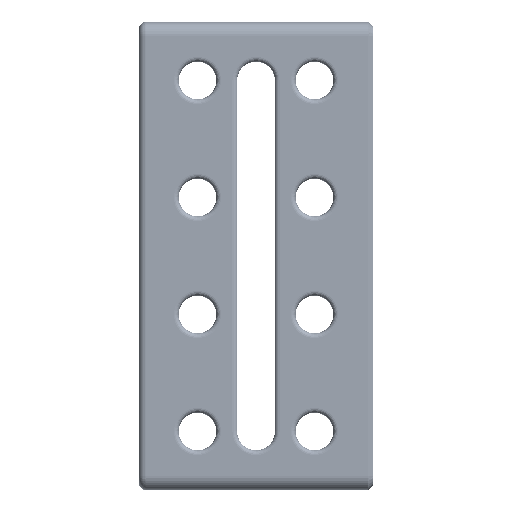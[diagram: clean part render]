
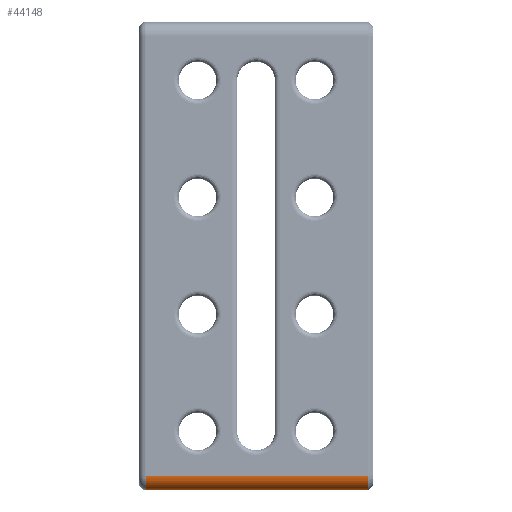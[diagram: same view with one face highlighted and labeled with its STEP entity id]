
A CAD part, left-side view. The second image highlights one B-rep face of the part: STEP entity #44148.
In plain terms, the highlighted cylindrical face has radius 6 mm (diameter 12 mm), a partial arc.
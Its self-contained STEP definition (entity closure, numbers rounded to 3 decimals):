
#2223 = EDGE_CURVE ( 'NONE', #53524, #18418, #20568, .T. ) ;
#8610 = DIRECTION ( 'NONE',  ( 0., 1., 0. ) ) ;
#9669 = CIRCLE ( 'NONE', #53481, 6. ) ;
#11099 = DIRECTION ( 'NONE',  ( 0., -1., 0. ) ) ;
#12696 = AXIS2_PLACEMENT_3D ( 'NONE', #42671, #8610, #48414 ) ;
#15423 = CARTESIAN_POINT ( 'NONE',  ( -750., -3., -94. ) ) ;
#16082 = CARTESIAN_POINT ( 'NONE',  ( -744., -3., -94. ) ) ;
#16832 = LINE ( 'NONE', #45186, #45305 ) ;
#18418 = VERTEX_POINT ( 'NONE', #48027 ) ;
#18537 = EDGE_CURVE ( 'NONE', #53524, #49909, #45219, .T. ) ;
#18580 = DIRECTION ( 'NONE',  ( 0., 1., 0. ) ) ;
#19907 = EDGE_LOOP ( 'NONE', ( #71280, #43034, #64623, #66709 ) ) ;
#20568 = CIRCLE ( 'NONE', #12696, 6. ) ;
#21131 = DIRECTION ( 'NONE',  ( 0., 1., 0. ) ) ;
#21787 = DIRECTION ( 'NONE',  ( 0., 0., 1. ) ) ;
#25303 = FACE_OUTER_BOUND ( 'NONE', #19907, .T. ) ;
#30050 = VECTOR ( 'NONE', #21131, 1000. ) ;
#33377 = EDGE_CURVE ( 'NONE', #36882, #49909, #9669, .T. ) ;
#36882 = VERTEX_POINT ( 'NONE', #15423 ) ;
#40701 = EDGE_CURVE ( 'NONE', #36882, #18418, #16832, .T. ) ;
#41723 = CARTESIAN_POINT ( 'NONE',  ( -744., -98., -100. ) ) ;
#42671 = CARTESIAN_POINT ( 'NONE',  ( -744., -98., -94. ) ) ;
#43034 = ORIENTED_EDGE ( 'NONE', *, *, #2223, .T. ) ;
#44148 = ADVANCED_FACE ( 'NONE', ( #25303 ), #67061, .T. ) ;
#45186 = CARTESIAN_POINT ( 'NONE',  ( -750., -12., -94. ) ) ;
#45219 = LINE ( 'NONE', #55173, #30050 ) ;
#45305 = VECTOR ( 'NONE', #11099, 1000. ) ;
#48027 = CARTESIAN_POINT ( 'NONE',  ( -750., -98., -94. ) ) ;
#48414 = DIRECTION ( 'NONE',  ( 0., 0., 1. ) ) ;
#49909 = VERTEX_POINT ( 'NONE', #59215 ) ;
#52639 = CARTESIAN_POINT ( 'NONE',  ( -744., -12., -94. ) ) ;
#53481 = AXIS2_PLACEMENT_3D ( 'NONE', #16082, #55837, #21787 ) ;
#53524 = VERTEX_POINT ( 'NONE', #41723 ) ;
#55173 = CARTESIAN_POINT ( 'NONE',  ( -744., -12., -100. ) ) ;
#55837 = DIRECTION ( 'NONE',  ( 0., -1., 0. ) ) ;
#56230 = AXIS2_PLACEMENT_3D ( 'NONE', #52639, #18580, #58355 ) ;
#58355 = DIRECTION ( 'NONE',  ( 0., 0., 1. ) ) ;
#59215 = CARTESIAN_POINT ( 'NONE',  ( -744., -3., -100. ) ) ;
#64623 = ORIENTED_EDGE ( 'NONE', *, *, #40701, .F. ) ;
#66709 = ORIENTED_EDGE ( 'NONE', *, *, #33377, .T. ) ;
#67061 = CYLINDRICAL_SURFACE ( 'NONE', #56230, 6. ) ;
#71280 = ORIENTED_EDGE ( 'NONE', *, *, #18537, .F. ) ;
